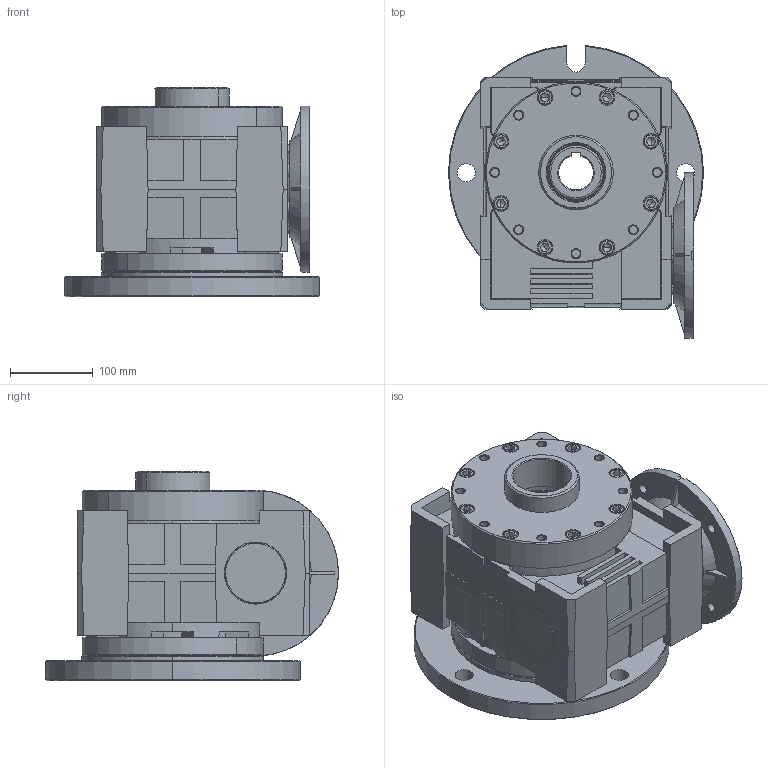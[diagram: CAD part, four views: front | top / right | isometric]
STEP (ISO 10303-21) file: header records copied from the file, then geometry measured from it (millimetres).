
FILE_DESCRIPTION (( 'STEP AP203' ), '1' );
FILE_NAME ('MRP-100_200-24_SO-1_K-1.STEP', '2022-12-05T11:26:57', ( '' ), ( '' ), 'SwSTEP 2.0', 'SolidWorks 2022', '' );
FILE_SCHEMA (( 'CONFIG_CONTROL_DESIGN' ));
Length unit declared in the file: millimetre
Products named in the file (1): MRP-100_200-24_SO-1_K-1
Bounding box: 308 x 353.83 x 253 mm (x, y, z)
Volume: 11350455.5 mm3; surface area: 863243.8 mm2
Topology: 1 solids, 65 shells, 1905 faces, 4493 edges, 2770 vertices
Faces by surface type: plane 922, cone 406, cylinder 364, torus 149, bspline 64
Entity records: 58933 total; most frequent: CARTESIAN_POINT 15153, DIRECTION 9402, ORIENTED_EDGE 8830, EDGE_CURVE 4415, AXIS2_PLACEMENT_3D 3637, VERTEX_POINT 2770, VECTOR 2128, LINE 2128
